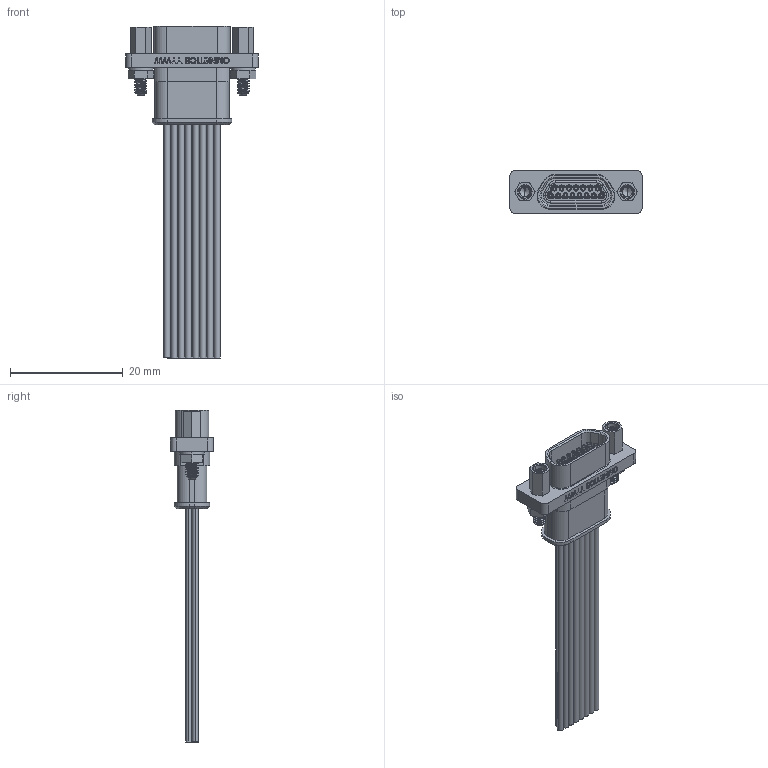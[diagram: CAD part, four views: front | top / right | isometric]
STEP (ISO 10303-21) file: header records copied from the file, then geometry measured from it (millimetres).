
FILE_DESCRIPTION (( 'STEP AP214' ), '1' );
FILE_NAME ('A99279-015 REV A.STEP', '2017-03-07T21:56:26', ( '' ), ( '' ), 'SwSTEP 2.0', 'SolidWorks 2016', '' );
FILE_SCHEMA (( 'AUTOMOTIVE_DESIGN' ));
Length unit declared in the file: inch
Products named in the file (1): A99279-015 REV A
Bounding box: 23.5 x 7.63 x 58.88 mm (x, y, z)
Volume: 1720.3 mm3; surface area: 4959 mm2
Topology: 1 solids, 32 shells, 1025 faces, 2458 edges, 1572 vertices
Faces by surface type: cylinder 424, plane 356, cone 100, torus 73, bspline 72
Entity records: 40629 total; most frequent: CARTESIAN_POINT 16943, DIRECTION 4939, ORIENTED_EDGE 4896, EDGE_CURVE 2448, AXIS2_PLACEMENT_3D 1925, VERTEX_POINT 1572, EDGE_LOOP 1180, LINE 1089
